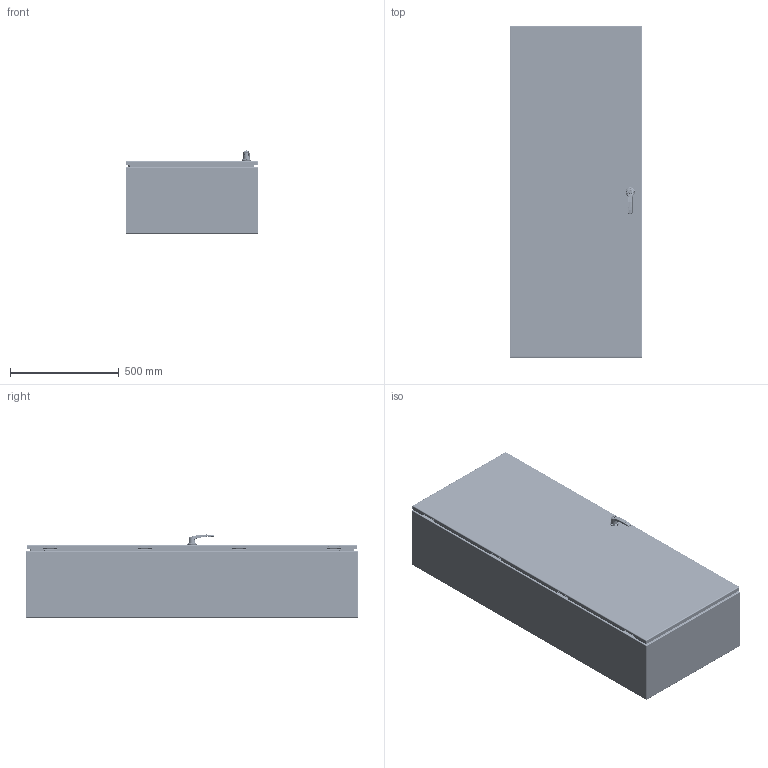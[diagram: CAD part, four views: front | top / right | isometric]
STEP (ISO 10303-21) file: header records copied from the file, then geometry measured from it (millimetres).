
FILE_DESCRIPTION(/* description */ ('5412ES 60" x 24" x 12" Assembly'),/* implementation_level */ '2;1');
FILE_NAME(/* name */ 'C:\Vault_Workspace\Inventor_Dwg\BoxCad\Result\5412ESB602412\e-mail\3D\5412ESB602412.stp',/* time_stamp */ '2022-03-23T19:11:50-04:00',/* author */ ('BoxCad'),/* organization */ (''),/* preprocessor_version */ 'ST-DEVELOPER v18.1',/* originating_system */ 'Autodesk Inventor 2020',/* authorisation */ '');
FILE_SCHEMA (('AUTOMOTIVE_DESIGN { 1 0 10303 214 3 1 1 }'));
Products named in the file (53): 5412ESB602412; 5412ESB602412B; 5412ESB602412B-P; STK-Q-16005; STUD_M6 x 16mm; STK-Q-07610; 881SP6024G; 881SP6024G-P; STK-Q-07310; 5412ESB602412C; 5412ESB602412C-P; 5412ESB602412G; STK-K-09800; STK-K-09800-2; STK-K-09800-3; STK-K-09800-4; STK-Q-33014; STK-Q-90398; STK-Q-40095; STK-Q-63410; STK-Q-16055; STK-Q-16405; STK-Q-46020-60; STK-Q-07220-1; STK-Q-07220-2; STK-Q-07220-3; STK-Q-07220-4; STK-Q-07220-5; STK-Q-07220-6; STK-Q-07220-A; STK-Q-07220-B; STK-P-03820R; STK-S-00100; STK-A-885ESL2A-L-1; STK-Q-78210; STK-Q-78215; STK-Q-78220-K; STK-Q-78230; STK-Q-78240; STK-Q-03200-NT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
Assembly tree (113 placements, depth 4):
  5412ESB602412
    5412ESB602412B
      5412ESB602412B-P
      STK-Q-16005  x6
      STK-P-03820R
      STUD_M6 x 16mm
    STK-Q-07610  x6
    881SP6024G
      881SP6024G-P
    STK-Q-07310  x6
    5412ESB602412C
      5412ESB602412C-P
      5412ESB602412G
      STK-K-09800
        STK-Q-33014
        STK-Q-90398
        STK-Q-40095  x2
        STK-Q-63410  x2
      STK-K-09800-2
        STK-Q-33014
        STK-Q-90398
        STK-Q-40095  x2
        STK-Q-63410  x2
      STK-K-09800-3
        STK-Q-33014
        STK-Q-90398
        STK-Q-40095  x2
        STK-Q-63410  x2
      STK-K-09800-4
        STK-Q-33014
        STK-Q-90398
        STK-Q-40095  x2
        STK-Q-63410  x2
      STK-Q-16055  x6
      STK-Q-16405  x2
      STK-Q-46020-60  x2
      STK-Q-07220-1
        STK-Q-07220-A
        STK-Q-07220-B
      STK-Q-07220-2
        STK-Q-07220-A
        STK-Q-07220-B
      STK-Q-07220-3
        STK-Q-07220-A
        STK-Q-07220-B
      STK-Q-07220-4
        STK-Q-07220-A
        STK-Q-07220-B
      STK-Q-07220-5
        STK-Q-07220-A
        STK-Q-07220-B
      STK-Q-07220-6
        STK-Q-07220-A
        STK-Q-07220-B
      STK-P-03820R
      STK-S-00100
      STK-A-885ESL2A-L-1
        STK-Q-78210
        STK-Q-78215
        STK-Q-78220-K
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Bounding box: 610.05 x 1524 x 381.39 mm (x, y, z)
Volume: 8741032.3 mm3; surface area: 9166604.8 mm2
Topology: 91 solids, 91 shells, 14767 faces, 39377 edges, 24990 vertices
Faces by surface type: bspline 5133, cylinder 4157, plane 3664, torus 1302, sphere 266, cone 245
Full cylindrical faces by diameter (mm): 0 x1, 0.75 x15, 0.762 x15, 1 x16, 1.1 x16, 1.581 x1, 2.459 x1, 3.2 x8, 4.191 x112, 4.2 x2, 4.5 x6, 4.521 x16, 4.75 x4, 4.85 x32, 4.95 x8, 5 x6, 5.1 x23, 5.11 x1, 5.156 x4, 5.6 x4, 5.9 x28, 6.015 x112, 6.65 x6, 6.8 x6, 6.85 x24, 7.3 x4, 7.366 x4, 7.5 x2, 7.9 x14, 8 x18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
Entity records: 196718 total; most frequent: CARTESIAN_POINT 74105, ORIENTED_EDGE 27382, DIRECTION 21576, EDGE_CURVE 13691, VERTEX_POINT 8666, AXIS2_PLACEMENT_3D 8087, EDGE_LOOP 5795, LINE 5402
